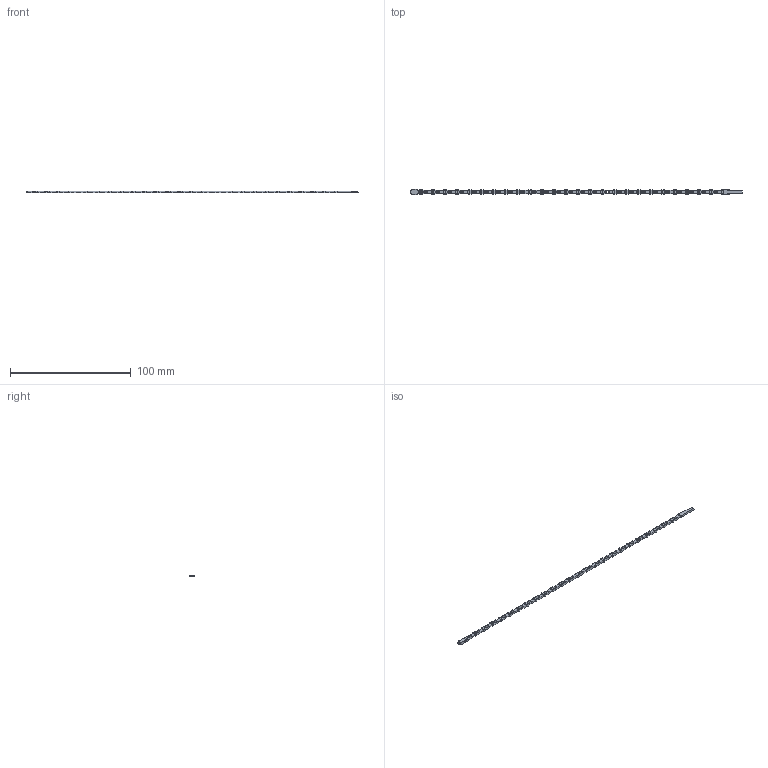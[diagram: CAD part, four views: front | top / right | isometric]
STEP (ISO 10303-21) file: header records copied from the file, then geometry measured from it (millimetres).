
FILE_DESCRIPTION(('Creo Elements/Direct Modeling STEP Export'),'2;1');
FILE_NAME('OV-4_20130926.stp','2013-09-27T 9:26:11',(''),(''),'Creo Elements/Direct Modeling STEP processor for AP214 (Solid Model)','Creo Elements/Direct Modeling 18.1B 29-Sep-2012 (C) Parametric Technology GmbH','');
FILE_SCHEMA(('AUTOMOTIVE_DESIGN { 1 0 10303 214 1 1 1 1 }'));
Length unit declared in the file: millimetre
Products named in the file (1): OV-4
Bounding box: 274.64 x 4.14 x 1.6 mm (x, y, z)
Volume: 1030.9 mm3; surface area: 2851 mm2
Topology: 1 solids, 1 shells, 838 faces, 2505 edges, 1670 vertices
Faces by surface type: plane 498, cylinder 256, cone 82, bspline 2
Entity records: 26717 total; most frequent: CARTESIAN_POINT 5250, ORIENTED_EDGE 5010, DIRECTION 4061, EDGE_CURVE 2505, VERTEX_POINT 1670, VECTOR 1403, LINE 1403, AXIS2_PLACEMENT_3D 1329
